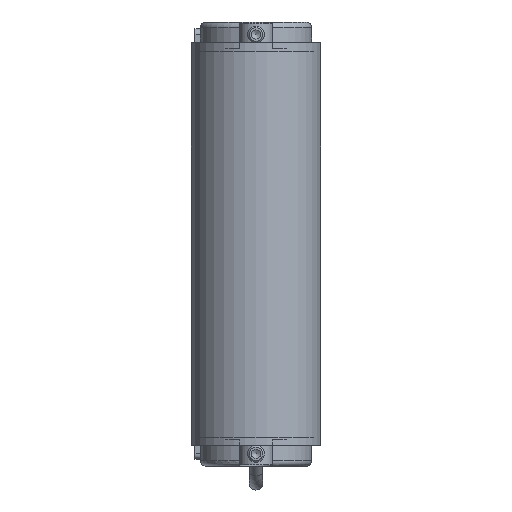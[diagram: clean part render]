
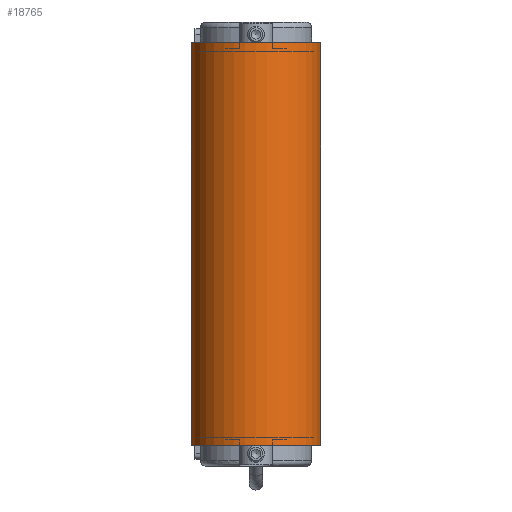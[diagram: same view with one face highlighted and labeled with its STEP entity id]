
A CAD part, front view. The second image highlights one B-rep face of the part: STEP entity #18765.
In plain terms, the highlighted cylindrical face has radius 23.3 mm (diameter 46.6 mm), a partial arc.
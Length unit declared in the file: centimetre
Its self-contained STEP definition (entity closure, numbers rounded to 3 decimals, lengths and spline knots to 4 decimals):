
#545=CYLINDRICAL_SURFACE('',#20068,2.33);
#1155=CIRCLE('',#20063,2.33);
#1158=CIRCLE('',#20069,2.33);
#1949=FACE_OUTER_BOUND('',#2970,.T.);
#2970=EDGE_LOOP('',(#12694,#12695,#12696,#12697));
#4255=LINE('',#27642,#5763);
#4256=LINE('',#27646,#5764);
#5763=VECTOR('',#22664,1.);
#5764=VECTOR('',#22669,1.);
#7440=VERTEX_POINT('',#27625);
#7441=VERTEX_POINT('',#27626);
#7446=VERTEX_POINT('',#27640);
#7447=VERTEX_POINT('',#27644);
#9491=EDGE_CURVE('',#7440,#7441,#1155,.T.);
#9499=EDGE_CURVE('',#7446,#7441,#4255,.T.);
#9500=EDGE_CURVE('',#7446,#7447,#1158,.T.);
#9501=EDGE_CURVE('',#7440,#7447,#4256,.T.);
#12694=ORIENTED_EDGE('',*,*,#9500,.T.);
#12695=ORIENTED_EDGE('',*,*,#9501,.F.);
#12696=ORIENTED_EDGE('',*,*,#9491,.T.);
#12697=ORIENTED_EDGE('',*,*,#9499,.F.);
#18765=ADVANCED_FACE('',(#1949),#545,.T.);
#20063=AXIS2_PLACEMENT_3D('',#27627,#22649,#22650);
#20068=AXIS2_PLACEMENT_3D('',#27643,#22665,#22666);
#20069=AXIS2_PLACEMENT_3D('',#27645,#22667,#22668);
#22649=DIRECTION('center_axis',(0.,0.,
-1.));
#22650=DIRECTION('ref_axis',(-1.,0.,0.));
#22664=DIRECTION('',(0.,0.,1.));
#22665=DIRECTION('center_axis',(0.,0.,
-1.));
#22666=DIRECTION('ref_axis',(-1.,0.,0.));
#22667=DIRECTION('center_axis',(0.,0.,
1.));
#22668=DIRECTION('ref_axis',(-1.,0.,0.));
#22669=DIRECTION('',(0.,0.,-1.));
#27625=CARTESIAN_POINT('',(2.33,-77.,7.25));
#27626=CARTESIAN_POINT('',(-2.33,-77.,7.25));
#27627=CARTESIAN_POINT('Origin',(0.,-77.,
7.25));
#27640=CARTESIAN_POINT('',(-2.33,-77.,-7.25));
#27642=CARTESIAN_POINT('',(-2.33,-77.,0.));
#27643=CARTESIAN_POINT('Origin',(0.,-77.,
0.));
#27644=CARTESIAN_POINT('',(2.33,-77.,-7.25));
#27645=CARTESIAN_POINT('Origin',(0.,-77.,
-7.25));
#27646=CARTESIAN_POINT('',(2.33,-77.,0.));
